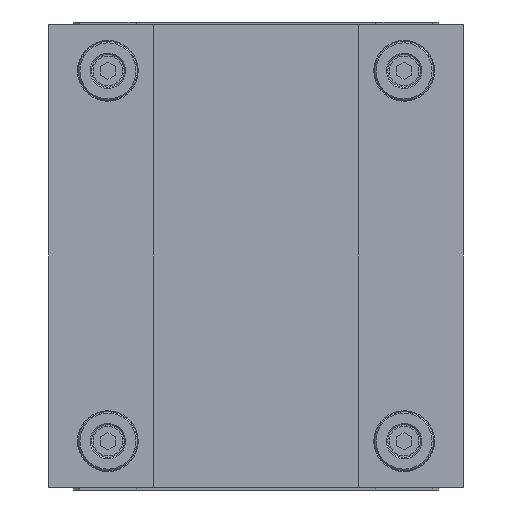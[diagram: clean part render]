
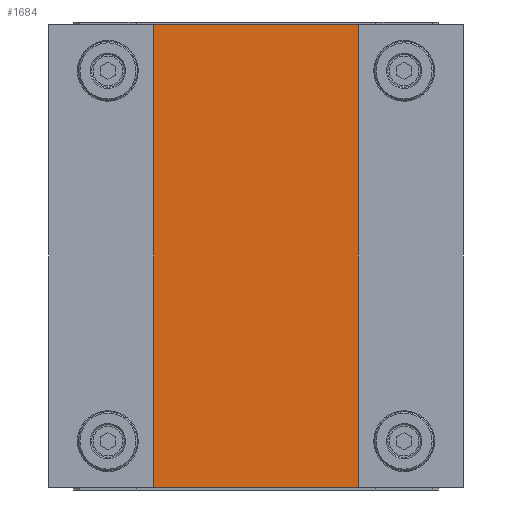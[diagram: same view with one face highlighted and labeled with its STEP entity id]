
A CAD part, front view. The second image highlights one B-rep face of the part: STEP entity #1684.
In plain terms, the highlighted planar face has unit normal (0, -1, 0).
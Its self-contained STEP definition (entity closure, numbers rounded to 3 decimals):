
#1209 = EDGE_CURVE ( 'NONE', #1263, #9239, #6461, .T. ) ;
#1263 = VERTEX_POINT ( 'NONE', #6609 ) ;
#1684 = ADVANCED_FACE ( 'NONE', ( #7837 ), #7838, .F. ) ;
#1879 = EDGE_LOOP ( 'NONE', ( #2403, #3345, #3889, #4791 ) ) ;
#1965 = VERTEX_POINT ( 'NONE', #8096 ) ;
#2403 = ORIENTED_EDGE ( 'NONE', *, *, #2776, .T. ) ;
#2776 = EDGE_CURVE ( 'NONE', #9239, #8171, #8462, .T. ) ;
#2843 = EDGE_CURVE ( 'NONE', #1965, #8171, #8505, .T. ) ;
#3345 = ORIENTED_EDGE ( 'NONE', *, *, #2843, .F. ) ;
#3889 = ORIENTED_EDGE ( 'NONE', *, *, #4245, .F. ) ;
#4245 = EDGE_CURVE ( 'NONE', #1263, #1965, #9181, .T. ) ;
#4791 = ORIENTED_EDGE ( 'NONE', *, *, #1209, .T. ) ;
#5161 = CARTESIAN_POINT ( 'NONE',  ( 39., -13., -78. ) ) ;
#5910 = CARTESIAN_POINT ( 'NONE',  ( -39., -13., -78. ) ) ;
#6461 = LINE ( 'NONE', #6462, #6463 ) ;
#6462 = CARTESIAN_POINT ( 'NONE',  ( -39., -13., 78. ) ) ;
#6463 = VECTOR ( 'NONE', #6464, 1000. ) ;
#6464 = DIRECTION ( 'NONE',  ( 0., 0., -1. ) ) ;
#6609 = CARTESIAN_POINT ( 'NONE',  ( -39., -13., 78. ) ) ;
#7837 = FACE_OUTER_BOUND ( 'NONE', #1879, .T. ) ;
#7838 = PLANE ( 'NONE',  #7849 ) ;
#7849 = AXIS2_PLACEMENT_3D ( 'NONE', #7850, #7851, #7852 ) ;
#7850 = CARTESIAN_POINT ( 'NONE',  ( 39., -13., 78. ) ) ;
#7851 = DIRECTION ( 'NONE',  ( 0., 1., 0. ) ) ;
#7852 = DIRECTION ( 'NONE',  ( -1., 0., 0. ) ) ;
#8096 = CARTESIAN_POINT ( 'NONE',  ( 39., -13., 78. ) ) ;
#8171 = VERTEX_POINT ( 'NONE', #5161 ) ;
#8462 = LINE ( 'NONE', #8463, #8464 ) ;
#8463 = CARTESIAN_POINT ( 'NONE',  ( 39., -13., -78. ) ) ;
#8464 = VECTOR ( 'NONE', #8465, 1000. ) ;
#8465 = DIRECTION ( 'NONE',  ( 1., 0., 0. ) ) ;
#8505 = LINE ( 'NONE', #8506, #8507 ) ;
#8506 = CARTESIAN_POINT ( 'NONE',  ( 39., -13., 78. ) ) ;
#8507 = VECTOR ( 'NONE', #8508, 1000. ) ;
#8508 = DIRECTION ( 'NONE',  ( 0., 0., -1. ) ) ;
#9181 = LINE ( 'NONE', #9182, #9183 ) ;
#9182 = CARTESIAN_POINT ( 'NONE',  ( 39., -13., 78. ) ) ;
#9183 = VECTOR ( 'NONE', #9184, 1000. ) ;
#9184 = DIRECTION ( 'NONE',  ( 1., 0., 0. ) ) ;
#9239 = VERTEX_POINT ( 'NONE', #5910 ) ;
